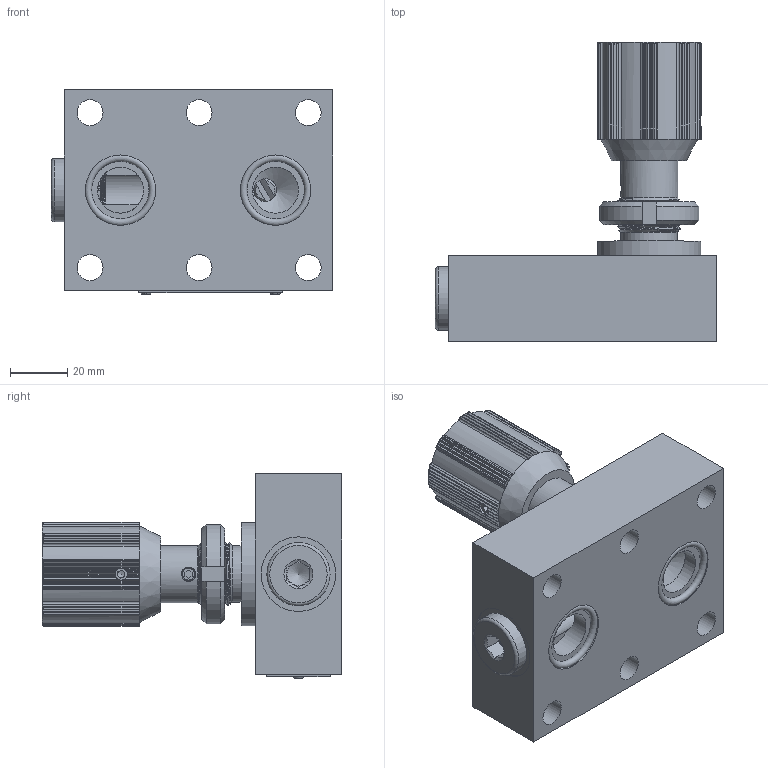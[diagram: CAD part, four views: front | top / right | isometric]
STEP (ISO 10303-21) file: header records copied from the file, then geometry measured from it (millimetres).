
FILE_DESCRIPTION(/* description */ (''),/* implementation_level */ '2;1');
FILE_NAME(/* name */ 'DRV16S-1XJ.stp',/* time_stamp */ '2025-04-14T12:38:43+08:00',/* author */ (''),/* organization */ (''),/* preprocessor_version */ 'ST-DEVELOPER v16.7',/* originating_system */ 'SIEMENS PLM Software NX 12.0',/* authorisation */ '');
FILE_SCHEMA (('AUTOMOTIVE_DESIGN { 1 0 10303 214 3 1 1 1 }'));
Products named in the file (1): DRV16S-1XJ
Bounding box: 98 x 104.33 x 71.29 mm (x, y, z)
Volume: 221601.2 mm3; surface area: 66691 mm2
Topology: 19 solids, 19 shells, 516 faces, 1329 edges, 873 vertices
Faces by surface type: plane 270, cylinder 154, cone 43, bspline 33, torus 16
Full cylindrical faces by diameter (mm): 1.5 x3, 1.8 x2, 2 x2, 3.5 x1, 4 x1, 4.2 x2, 5 x1, 6.9 x1, 7 x1, 8 x4, 9 x11, 10 x1, 11 x1, 11.7 x1, 12 x4, 14 x6, 14.6 x2, 15 x1, 16 x2, 18 x1, 19 x2, 19.7 x1, 20 x3, 22 x1, 24 x2, 24.5 x2, 26 x1, 26.875 x1, 28 x1, 30 x1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
Entity records: 54427 total; most frequent: CARTESIAN_POINT 40102, ORIENTED_EDGE 2358, DIRECTION 2244, EDGE_CURVE 1179, AXIS2_PLACEMENT_3D 878, VERTEX_POINT 836, EDGE_LOOP 679, ADVANCED_FACE 513
